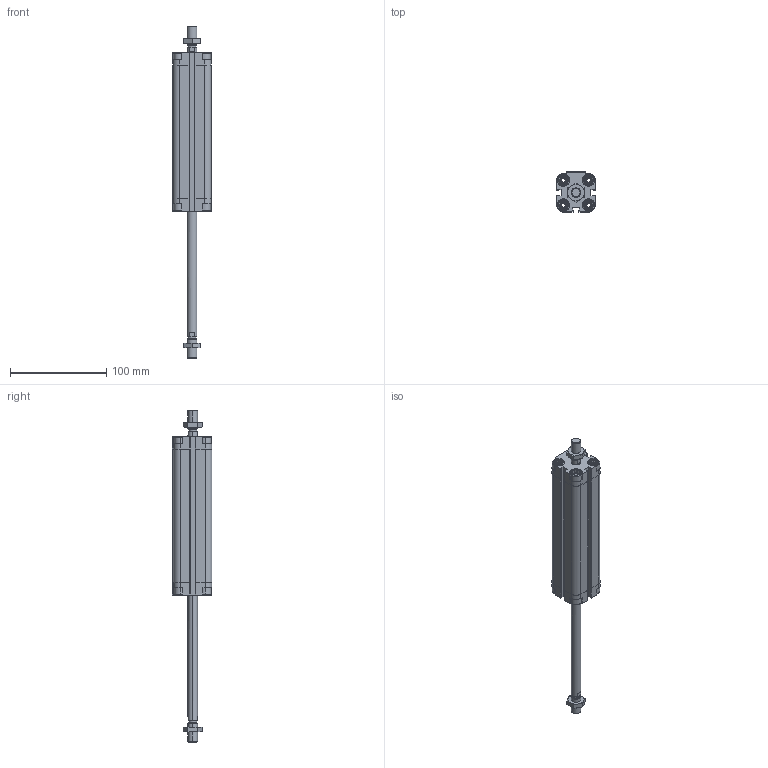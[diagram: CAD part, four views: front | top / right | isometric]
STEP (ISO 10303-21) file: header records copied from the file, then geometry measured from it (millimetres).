
FILE_DESCRIPTION (( 'STEP AP203' ), '1' );
FILE_NAME ('CDVU25-125M-P.STEP', '2020-07-21T15:12:47', ( '' ), ( '' ), 'SwSTEP 2.0', 'SolidWorks 2019', '' );
FILE_SCHEMA (( 'CONFIG_CONTROL_DESIGN' ));
Length unit declared in the file: millimetre
Products named in the file (1): CDVU25-125M-P
Bounding box: 40 x 41.5 x 344.5 mm (x, y, z)
Volume: 178103.8 mm3; surface area: 77371.6 mm2
Topology: 4 solids, 4 shells, 632 faces, 1650 edges, 1062 vertices
Faces by surface type: plane 372, cylinder 180, cone 64, torus 16
Entity records: 20069 total; most frequent: CARTESIAN_POINT 4485, ORIENTED_EDGE 3292, DIRECTION 3152, EDGE_CURVE 1646, AXIS2_PLACEMENT_3D 1089, VERTEX_POINT 1062, LINE 974, VECTOR 974
